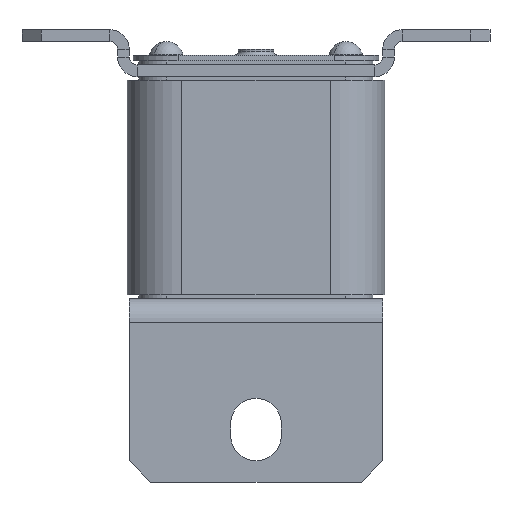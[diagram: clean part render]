
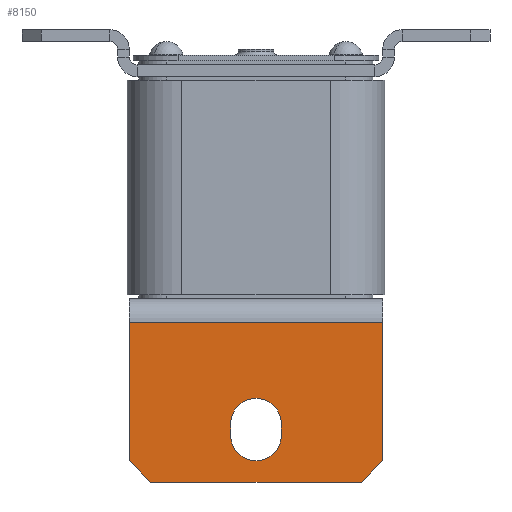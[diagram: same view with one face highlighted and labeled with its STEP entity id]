
A CAD part, front view. The second image highlights one B-rep face of the part: STEP entity #8150.
In plain terms, the highlighted planar face has unit normal (0, -1, 0).
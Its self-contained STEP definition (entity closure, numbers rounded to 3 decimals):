
#506 = EDGE_CURVE ( 'NONE', #13084, #5861, #9041, .T. ) ;
#727 = EDGE_CURVE ( 'NONE', #11490, #11511, #2482, .T. ) ;
#852 = DIRECTION ( 'NONE',  ( 0., 0., -1. ) ) ;
#915 = CARTESIAN_POINT ( 'NONE',  ( -62.368, -16.503, -59. ) ) ;
#979 = CARTESIAN_POINT ( 'NONE',  ( -29.868, -16.503, -91. ) ) ;
#1257 = VERTEX_POINT ( 'NONE', #1822 ) ;
#1348 = CARTESIAN_POINT ( 'NONE',  ( -62.368, -16.503, -62. ) ) ;
#1519 = VECTOR ( 'NONE', #4477, 1000. ) ;
#1802 = ORIENTED_EDGE ( 'NONE', *, *, #5931, .T. ) ;
#1822 = CARTESIAN_POINT ( 'NONE',  ( -23.368, -16.503, -88. ) ) ;
#1847 = LINE ( 'NONE', #12782, #14829 ) ;
#2093 = CARTESIAN_POINT ( 'NONE',  ( -56.868, -16.503, -103. ) ) ;
#2137 = CARTESIAN_POINT ( 'NONE',  ( -29.868, -16.503, -91. ) ) ;
#2355 = CARTESIAN_POINT ( 'NONE',  ( -62.368, -16.503, -62. ) ) ;
#2482 = LINE ( 'NONE', #5759, #12144 ) ;
#2578 = DIRECTION ( 'NONE',  ( 0.707, 0., 0.707 ) ) ;
#2687 = AXIS2_PLACEMENT_3D ( 'NONE', #3712, #15058, #3779 ) ;
#2820 = CIRCLE ( 'NONE', #4684, 6.5 ) ;
#3182 = ORIENTED_EDGE ( 'NONE', *, *, #14427, .F. ) ;
#3248 = CIRCLE ( 'NONE', #2687, 6.5 ) ;
#3398 = ORIENTED_EDGE ( 'NONE', *, *, #12793, .T. ) ;
#3431 = DIRECTION ( 'NONE',  ( 0., 1., 0. ) ) ;
#3712 = CARTESIAN_POINT ( 'NONE',  ( -29.868, -16.503, -88. ) ) ;
#3779 = DIRECTION ( 'NONE',  ( 0., 0., 1. ) ) ;
#4171 = EDGE_CURVE ( 'NONE', #4430, #7921, #9010, .T. ) ;
#4412 = AXIS2_PLACEMENT_3D ( 'NONE', #979, #8508, #12173 ) ;
#4430 = VERTEX_POINT ( 'NONE', #14222 ) ;
#4477 = DIRECTION ( 'NONE',  ( 0., 0., 1. ) ) ;
#4678 = LINE ( 'NONE', #12214, #1519 ) ;
#4684 = AXIS2_PLACEMENT_3D ( 'NONE', #2137, #4693, #8310 ) ;
#4693 = DIRECTION ( 'NONE',  ( 0., -1., 0. ) ) ;
#4725 = CARTESIAN_POINT ( 'NONE',  ( -36.368, -16.503, -91. ) ) ;
#4786 = CARTESIAN_POINT ( 'NONE',  ( -36.368, -16.503, -88. ) ) ;
#5203 = AXIS2_PLACEMENT_3D ( 'NONE', #915, #3431, #852 ) ;
#5213 = LINE ( 'NONE', #11723, #6591 ) ;
#5419 = EDGE_CURVE ( 'NONE', #5438, #7399, #2820, .T. ) ;
#5438 = VERTEX_POINT ( 'NONE', #13455 ) ;
#5497 = DIRECTION ( 'NONE',  ( 1., 0., 0. ) ) ;
#5688 = VECTOR ( 'NONE', #10007, 1000. ) ;
#5759 = CARTESIAN_POINT ( 'NONE',  ( -36.368, -16.503, -91. ) ) ;
#5861 = VERTEX_POINT ( 'NONE', #7950 ) ;
#5931 = EDGE_CURVE ( 'NONE', #12866, #6539, #13198, .T. ) ;
#6020 = VECTOR ( 'NONE', #9665, 1000. ) ;
#6502 = DIRECTION ( 'NONE',  ( 0., 0., -1. ) ) ;
#6539 = VERTEX_POINT ( 'NONE', #10018 ) ;
#6591 = VECTOR ( 'NONE', #5497, 1000. ) ;
#6626 = CARTESIAN_POINT ( 'NONE',  ( -23.368, -16.503, -91. ) ) ;
#6892 = CARTESIAN_POINT ( 'NONE',  ( -2.868, -16.503, -103. ) ) ;
#7009 = DIRECTION ( 'NONE',  ( 0., 0., 1. ) ) ;
#7064 = FACE_OUTER_BOUND ( 'NONE', #13054, .T. ) ;
#7399 = VERTEX_POINT ( 'NONE', #6626 ) ;
#7921 = VERTEX_POINT ( 'NONE', #14137 ) ;
#7943 = CIRCLE ( 'NONE', #4412, 6.5 ) ;
#7950 = CARTESIAN_POINT ( 'NONE',  ( 2.632, -16.503, -62. ) ) ;
#8150 = ADVANCED_FACE ( 'NONE', ( #16077, #7064 ), #9624, .F. ) ;
#8310 = DIRECTION ( 'NONE',  ( 0., 0., 1. ) ) ;
#8508 = DIRECTION ( 'NONE',  ( 0., -1., 0. ) ) ;
#8727 = ORIENTED_EDGE ( 'NONE', *, *, #506, .F. ) ;
#9010 = LINE ( 'NONE', #2093, #6020 ) ;
#9041 = LINE ( 'NONE', #1348, #5688 ) ;
#9539 = EDGE_CURVE ( 'NONE', #13084, #4430, #1847, .T. ) ;
#9624 = PLANE ( 'NONE',  #5203 ) ;
#9665 = DIRECTION ( 'NONE',  ( 0.707, 0., -0.707 ) ) ;
#9833 = EDGE_CURVE ( 'NONE', #7399, #1257, #4678, .T. ) ;
#10007 = DIRECTION ( 'NONE',  ( 1., 0., 0. ) ) ;
#10017 = CARTESIAN_POINT ( 'NONE',  ( -2.868, -16.503, -103. ) ) ;
#10018 = CARTESIAN_POINT ( 'NONE',  ( 2.632, -16.503, -97.5 ) ) ;
#10486 = ORIENTED_EDGE ( 'NONE', *, *, #13788, .T. ) ;
#10610 = ORIENTED_EDGE ( 'NONE', *, *, #727, .F. ) ;
#10643 = ORIENTED_EDGE ( 'NONE', *, *, #9539, .T. ) ;
#10827 = DIRECTION ( 'NONE',  ( 0., 0., -1. ) ) ;
#11490 = VERTEX_POINT ( 'NONE', #4786 ) ;
#11511 = VERTEX_POINT ( 'NONE', #4725 ) ;
#11723 = CARTESIAN_POINT ( 'NONE',  ( -2.868, -16.503, -103. ) ) ;
#12144 = VECTOR ( 'NONE', #10827, 1000. ) ;
#12173 = DIRECTION ( 'NONE',  ( 0., 0., 1. ) ) ;
#12214 = CARTESIAN_POINT ( 'NONE',  ( -23.368, -16.503, -91. ) ) ;
#12378 = VECTOR ( 'NONE', #7009, 1000. ) ;
#12419 = VECTOR ( 'NONE', #2578, 1000. ) ;
#12586 = LINE ( 'NONE', #14471, #12378 ) ;
#12782 = CARTESIAN_POINT ( 'NONE',  ( -62.368, -16.503, -97.5 ) ) ;
#12793 = EDGE_CURVE ( 'NONE', #6539, #5861, #12586, .T. ) ;
#12866 = VERTEX_POINT ( 'NONE', #6892 ) ;
#12977 = ORIENTED_EDGE ( 'NONE', *, *, #4171, .T. ) ;
#13054 = EDGE_LOOP ( 'NONE', ( #8727, #10643, #12977, #10486, #1802, #3398 ) ) ;
#13084 = VERTEX_POINT ( 'NONE', #2355 ) ;
#13198 = LINE ( 'NONE', #10017, #12419 ) ;
#13455 = CARTESIAN_POINT ( 'NONE',  ( -29.868, -16.503, -97.5 ) ) ;
#13487 = EDGE_CURVE ( 'NONE', #1257, #11490, #3248, .T. ) ;
#13788 = EDGE_CURVE ( 'NONE', #7921, #12866, #5213, .T. ) ;
#14137 = CARTESIAN_POINT ( 'NONE',  ( -56.868, -16.503, -103. ) ) ;
#14222 = CARTESIAN_POINT ( 'NONE',  ( -62.368, -16.503, -97.5 ) ) ;
#14427 = EDGE_CURVE ( 'NONE', #11511, #5438, #7943, .T. ) ;
#14471 = CARTESIAN_POINT ( 'NONE',  ( 2.632, -16.503, -59. ) ) ;
#14829 = VECTOR ( 'NONE', #6502, 1000. ) ;
#15058 = DIRECTION ( 'NONE',  ( 0., -1., 0. ) ) ;
#15463 = ORIENTED_EDGE ( 'NONE', *, *, #9833, .F. ) ;
#15815 = EDGE_LOOP ( 'NONE', ( #3182, #10610, #16180, #15463, #16040 ) ) ;
#16040 = ORIENTED_EDGE ( 'NONE', *, *, #5419, .F. ) ;
#16077 = FACE_BOUND ( 'NONE', #15815, .T. ) ;
#16180 = ORIENTED_EDGE ( 'NONE', *, *, #13487, .F. ) ;
